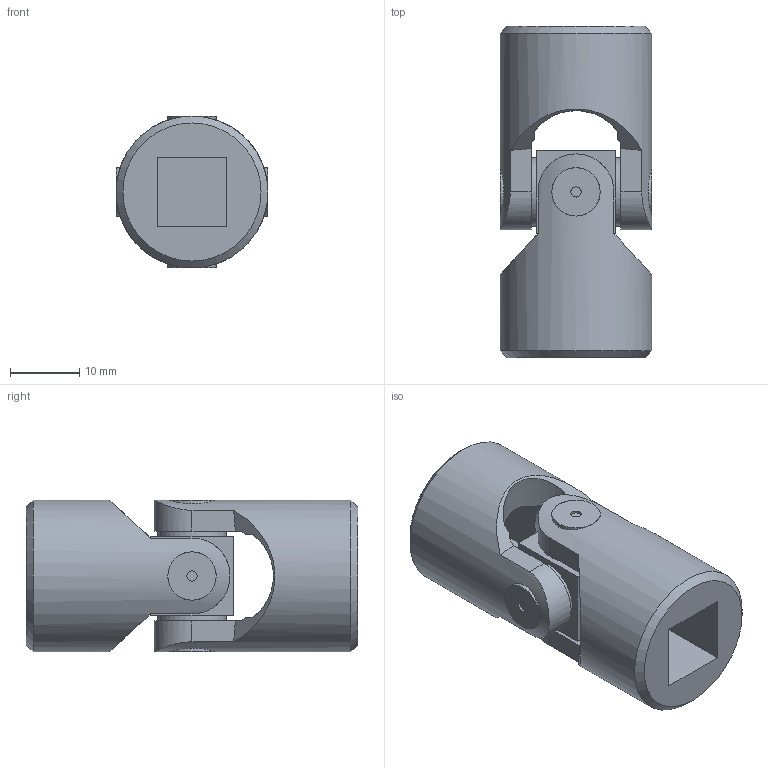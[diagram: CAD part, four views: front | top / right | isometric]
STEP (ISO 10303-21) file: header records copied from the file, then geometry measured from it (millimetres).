
FILE_DESCRIPTION(/* description */ ('EXTENSIBLE TRANSIMISSIONS Series G DIN 808 -2-'),/* implementation_level */ '2;1');
FILE_NAME(/* name */ '\\SRV2016\societa\Stefano\Disegni 3D\Dis. Clienti\0000Catalogo 3D\01Singoli G-GB\SG0S102Q.stp',/* time_stamp */ '2021-11-08T14:36:38+01:00',/* author */ ('acquisti'),/* organization */ ('MARIOFERRI'),/* preprocessor_version */ 'ST-DEVELOPER v15.6',/* originating_system */ 'Autodesk Inventor 2015',/* authorisation */ '');
FILE_SCHEMA (('AUTOMOTIVE_DESIGN { 1 0 10303 214 3 1 1 }'));
Length unit declared in the file: millimetre
Products named in the file (3): 03G SFE; 03G MOQ; Assieme1
Assembly tree (3 placements, depth 2):
  Assieme1
    03G SFE
    03G MOQ  x2
Bounding box: 22 x 48 x 22 mm (x, y, z)
Volume: 12013.6 mm3; surface area: 6548.5 mm2
Topology: 3 solids, 3 shells, 94 faces, 230 edges, 152 vertices
Faces by surface type: plane 44, cylinder 30, cone 18, torus 2
Full cylindrical faces by diameter (mm): 1.5 x4, 10 x4, 22 x2
Entity records: 1775 total; most frequent: CARTESIAN_POINT 549, DIRECTION 236, ORIENTED_EDGE 234, EDGE_CURVE 117, AXIS2_PLACEMENT_3D 98, VERTEX_POINT 83, EDGE_LOOP 72, FACE_OUTER_BOUND 54
